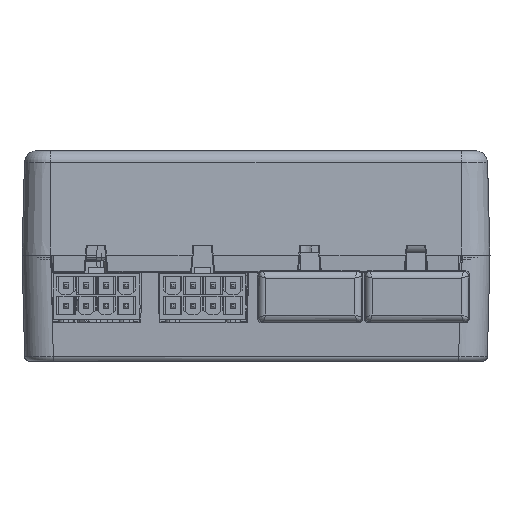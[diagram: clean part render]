
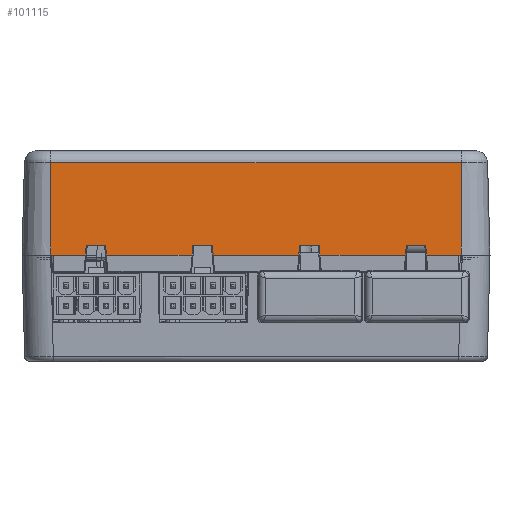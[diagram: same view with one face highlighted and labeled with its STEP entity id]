
A CAD part, left-side view. The second image highlights one B-rep face of the part: STEP entity #101115.
In plain terms, the highlighted planar face has unit normal (-1, 0, 0.026).
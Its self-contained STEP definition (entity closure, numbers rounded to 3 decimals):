
#3651=B_SPLINE_CURVE_WITH_KNOTS('',3,(#150980,#150981,#150982,#150983),
 .UNSPECIFIED.,.F.,.F.,(4,4),(0.,1.),.UNSPECIFIED.);
#3652=B_SPLINE_CURVE_WITH_KNOTS('',3,(#150988,#150989,#150990,#150991),
 .UNSPECIFIED.,.F.,.F.,(4,4),(0.,1.),.UNSPECIFIED.);
#3653=B_SPLINE_CURVE_WITH_KNOTS('',3,(#150995,#150996,#150997,#150998),
 .UNSPECIFIED.,.F.,.F.,(4,4),(0.,1.),.UNSPECIFIED.);
#3654=B_SPLINE_CURVE_WITH_KNOTS('',3,(#151002,#151003,#151004,#151005),
 .UNSPECIFIED.,.F.,.F.,(4,4),(0.,1.),.UNSPECIFIED.);
#3655=B_SPLINE_CURVE_WITH_KNOTS('',3,(#151009,#151010,#151011,#151012),
 .UNSPECIFIED.,.F.,.F.,(4,4),(0.,1.),.UNSPECIFIED.);
#3656=B_SPLINE_CURVE_WITH_KNOTS('',3,(#151016,#151017,#151018,#151019),
 .UNSPECIFIED.,.F.,.F.,(4,4),(0.,1.),.UNSPECIFIED.);
#3657=B_SPLINE_CURVE_WITH_KNOTS('',3,(#151023,#151024,#151025,#151026),
 .UNSPECIFIED.,.F.,.F.,(4,4),(0.,1.),.UNSPECIFIED.);
#3658=B_SPLINE_CURVE_WITH_KNOTS('',3,(#151030,#151031,#151032,#151033),
 .UNSPECIFIED.,.F.,.F.,(4,4),(0.,1.),.UNSPECIFIED.);
#11980=ORIENTED_EDGE('',*,*,#39346,.T.);
#11981=ORIENTED_EDGE('',*,*,#39347,.T.);
#11982=ORIENTED_EDGE('',*,*,#39348,.T.);
#11983=ORIENTED_EDGE('',*,*,#39349,.T.);
#11984=ORIENTED_EDGE('',*,*,#39350,.T.);
#11985=ORIENTED_EDGE('',*,*,#39351,.T.);
#11986=ORIENTED_EDGE('',*,*,#39352,.T.);
#11987=ORIENTED_EDGE('',*,*,#39353,.T.);
#11988=ORIENTED_EDGE('',*,*,#39354,.T.);
#11989=ORIENTED_EDGE('',*,*,#39355,.T.);
#11990=ORIENTED_EDGE('',*,*,#39356,.T.);
#11991=ORIENTED_EDGE('',*,*,#39357,.T.);
#11992=ORIENTED_EDGE('',*,*,#39358,.T.);
#11993=ORIENTED_EDGE('',*,*,#39359,.T.);
#11994=ORIENTED_EDGE('',*,*,#39360,.T.);
#11995=ORIENTED_EDGE('',*,*,#39361,.T.);
#11996=ORIENTED_EDGE('',*,*,#39362,.F.);
#11997=ORIENTED_EDGE('',*,*,#39363,.F.);
#11998=ORIENTED_EDGE('',*,*,#39364,.T.);
#11999=ORIENTED_EDGE('',*,*,#39345,.T.);
#12000=ORIENTED_EDGE('',*,*,#39365,.F.);
#12001=ORIENTED_EDGE('',*,*,#39366,.T.);
#39345=EDGE_CURVE('',#53356,#53358,#63571,.T.);
#39346=EDGE_CURVE('',#53359,#53360,#3651,.T.);
#39347=EDGE_CURVE('',#53360,#53361,#63572,.T.);
#39348=EDGE_CURVE('',#53361,#53362,#3652,.T.);
#39349=EDGE_CURVE('',#53362,#53363,#63573,.T.);
#39350=EDGE_CURVE('',#53363,#53364,#3653,.T.);
#39351=EDGE_CURVE('',#53364,#53365,#63574,.T.);
#39352=EDGE_CURVE('',#53365,#53366,#3654,.T.);
#39353=EDGE_CURVE('',#53366,#53367,#63575,.T.);
#39354=EDGE_CURVE('',#53367,#53368,#3655,.T.);
#39355=EDGE_CURVE('',#53368,#53369,#63576,.T.);
#39356=EDGE_CURVE('',#53369,#53370,#3656,.T.);
#39357=EDGE_CURVE('',#53370,#53371,#63577,.T.);
#39358=EDGE_CURVE('',#53371,#53372,#3657,.T.);
#39359=EDGE_CURVE('',#53372,#53373,#63578,.T.);
#39360=EDGE_CURVE('',#53373,#53374,#3658,.T.);
#39361=EDGE_CURVE('',#53374,#53375,#63579,.T.);
#39362=EDGE_CURVE('',#53376,#53375,#63580,.T.);
#39363=EDGE_CURVE('',#53377,#53376,#63581,.T.);
#39364=EDGE_CURVE('',#53377,#53356,#63582,.T.);
#39365=EDGE_CURVE('',#53378,#53358,#63583,.T.);
#39366=EDGE_CURVE('',#53378,#53359,#63584,.T.);
#53356=VERTEX_POINT('',#150971);
#53358=VERTEX_POINT('',#150977);
#53359=VERTEX_POINT('',#150984);
#53360=VERTEX_POINT('',#150985);
#53361=VERTEX_POINT('',#150987);
#53362=VERTEX_POINT('',#150992);
#53363=VERTEX_POINT('',#150994);
#53364=VERTEX_POINT('',#150999);
#53365=VERTEX_POINT('',#151001);
#53366=VERTEX_POINT('',#151006);
#53367=VERTEX_POINT('',#151008);
#53368=VERTEX_POINT('',#151013);
#53369=VERTEX_POINT('',#151015);
#53370=VERTEX_POINT('',#151020);
#53371=VERTEX_POINT('',#151022);
#53372=VERTEX_POINT('',#151027);
#53373=VERTEX_POINT('',#151029);
#53374=VERTEX_POINT('',#151034);
#53375=VERTEX_POINT('',#151036);
#53376=VERTEX_POINT('',#151038);
#53377=VERTEX_POINT('',#151040);
#53378=VERTEX_POINT('',#151043);
#63571=LINE('',#150978,#74891);
#63572=LINE('',#150986,#74892);
#63573=LINE('',#150993,#74893);
#63574=LINE('',#151000,#74894);
#63575=LINE('',#151007,#74895);
#63576=LINE('',#151014,#74896);
#63577=LINE('',#151021,#74897);
#63578=LINE('',#151028,#74898);
#63579=LINE('',#151035,#74899);
#63580=LINE('',#151037,#74900);
#63581=LINE('',#151039,#74901);
#63582=LINE('',#151041,#74902);
#63583=LINE('',#151042,#74903);
#63584=LINE('',#151044,#74904);
#74891=VECTOR('',#118611,1000.);
#74892=VECTOR('',#118614,1000.);
#74893=VECTOR('',#118615,1000.);
#74894=VECTOR('',#118616,1000.);
#74895=VECTOR('',#118617,1000.);
#74896=VECTOR('',#118618,1000.);
#74897=VECTOR('',#118619,1000.);
#74898=VECTOR('',#118620,1000.);
#74899=VECTOR('',#118621,1000.);
#74900=VECTOR('',#118622,1000.);
#74901=VECTOR('',#118623,1000.);
#74902=VECTOR('',#118624,1000.);
#74903=VECTOR('',#118625,1000.);
#74904=VECTOR('',#118626,1000.);
#84301=EDGE_LOOP('',(#11980,#11981,#11982,#11983,#11984,#11985,#11986,#11987,
#11988,#11989,#11990,#11991,#11992,#11993,#11994,#11995,#11996,#11997,#11998,
#11999,#12000,#12001));
#90093=FACE_BOUND('',#84301,.T.);
#95511=PLANE('',#107022);
#101115=ADVANCED_FACE('',(#90093),#95511,.T.);
#107022=AXIS2_PLACEMENT_3D('',#150979,#118612,#118613);
#118611=DIRECTION('',(-0.026,0.,-1.));
#118612=DIRECTION('',(-1.,0.,0.026));
#118613=DIRECTION('',(0.,1.,0.));
#118614=DIRECTION('',(0.,-1.,0.));
#118615=DIRECTION('',(0.,-1.,0.));
#118616=DIRECTION('',(0.,-1.,0.));
#118617=DIRECTION('',(0.,-1.,0.));
#118618=DIRECTION('',(0.,-1.,0.));
#118619=DIRECTION('',(0.,-1.,0.));
#118620=DIRECTION('',(0.,-1.,0.));
#118621=DIRECTION('',(0.,-1.,0.));
#118622=DIRECTION('',(0.,1.,0.));
#118623=DIRECTION('',(-0.026,0.,-1.));
#118624=DIRECTION('',(0.,1.,0.));
#118625=DIRECTION('',(0.,1.,0.));
#118626=DIRECTION('',(0.,-1.,0.));
#150971=CARTESIAN_POINT('',(-162.461,42.969,41.565));
#150977=CARTESIAN_POINT('',(-162.969,42.969,22.2));
#150978=CARTESIAN_POINT('',(-162.461,42.969,41.565));
#150979=CARTESIAN_POINT('',(-162.969,-47.101,22.2));
#150980=CARTESIAN_POINT('',(-162.969,35.701,22.2));
#150981=CARTESIAN_POINT('',(-162.951,35.643,22.867));
#150982=CARTESIAN_POINT('',(-162.934,35.584,23.533));
#150983=CARTESIAN_POINT('',(-162.916,35.526,24.2));
#150984=CARTESIAN_POINT('',(-162.969,35.701,22.2));
#150985=CARTESIAN_POINT('',(-162.916,35.526,24.2));
#150986=CARTESIAN_POINT('',(-162.916,35.526,24.2));
#150987=CARTESIAN_POINT('',(-162.916,31.474,24.2));
#150988=CARTESIAN_POINT('',(-162.916,31.474,24.2));
#150989=CARTESIAN_POINT('',(-162.934,31.416,23.533));
#150990=CARTESIAN_POINT('',(-162.951,31.357,22.867));
#150991=CARTESIAN_POINT('',(-162.969,31.299,22.2));
#150992=CARTESIAN_POINT('',(-162.969,31.299,22.2));
#150993=CARTESIAN_POINT('',(-162.969,-23.55,22.2));
#150994=CARTESIAN_POINT('',(-162.969,13.371,22.2));
#150995=CARTESIAN_POINT('',(-162.969,13.371,22.2));
#150996=CARTESIAN_POINT('',(-162.951,13.313,22.867));
#150997=CARTESIAN_POINT('',(-162.934,13.254,23.533));
#150998=CARTESIAN_POINT('',(-162.916,13.196,24.2));
#150999=CARTESIAN_POINT('',(-162.916,13.196,24.2));
#151000=CARTESIAN_POINT('',(-162.916,13.196,24.2));
#151001=CARTESIAN_POINT('',(-162.916,9.144,24.2));
#151002=CARTESIAN_POINT('',(-162.916,9.144,24.2));
#151003=CARTESIAN_POINT('',(-162.934,9.086,23.533));
#151004=CARTESIAN_POINT('',(-162.951,9.027,22.867));
#151005=CARTESIAN_POINT('',(-162.969,8.969,22.2));
#151006=CARTESIAN_POINT('',(-162.969,8.969,22.2));
#151007=CARTESIAN_POINT('',(-162.969,-23.55,22.2));
#151008=CARTESIAN_POINT('',(-162.969,-8.959,22.2));
#151009=CARTESIAN_POINT('',(-162.969,-8.959,22.2));
#151010=CARTESIAN_POINT('',(-162.951,-9.017,22.867));
#151011=CARTESIAN_POINT('',(-162.934,-9.076,23.533));
#151012=CARTESIAN_POINT('',(-162.916,-9.134,24.2));
#151013=CARTESIAN_POINT('',(-162.916,-9.134,24.2));
#151014=CARTESIAN_POINT('',(-162.916,-9.134,24.2));
#151015=CARTESIAN_POINT('',(-162.916,-13.186,24.2));
#151016=CARTESIAN_POINT('',(-162.916,-13.186,24.2));
#151017=CARTESIAN_POINT('',(-162.934,-13.244,23.533));
#151018=CARTESIAN_POINT('',(-162.951,-13.303,22.867));
#151019=CARTESIAN_POINT('',(-162.969,-13.361,22.2));
#151020=CARTESIAN_POINT('',(-162.969,-13.361,22.2));
#151021=CARTESIAN_POINT('',(-162.969,-23.55,22.2));
#151022=CARTESIAN_POINT('',(-162.969,-31.289,22.2));
#151023=CARTESIAN_POINT('',(-162.969,-31.289,22.2));
#151024=CARTESIAN_POINT('',(-162.951,-31.347,22.867));
#151025=CARTESIAN_POINT('',(-162.934,-31.406,23.533));
#151026=CARTESIAN_POINT('',(-162.916,-31.464,24.2));
#151027=CARTESIAN_POINT('',(-162.916,-31.464,24.2));
#151028=CARTESIAN_POINT('',(-162.916,-31.464,24.2));
#151029=CARTESIAN_POINT('',(-162.916,-35.516,24.2));
#151030=CARTESIAN_POINT('',(-162.916,-35.516,24.2));
#151031=CARTESIAN_POINT('',(-162.934,-35.574,23.533));
#151032=CARTESIAN_POINT('',(-162.951,-35.633,22.867));
#151033=CARTESIAN_POINT('',(-162.969,-35.691,22.2));
#151034=CARTESIAN_POINT('',(-162.969,-35.691,22.2));
#151035=CARTESIAN_POINT('',(-162.969,-23.55,22.2));
#151036=CARTESIAN_POINT('',(-162.969,-42.45,22.2));
#151037=CARTESIAN_POINT('',(-162.969,-42.969,22.2));
#151038=CARTESIAN_POINT('',(-162.969,-42.969,22.2));
#151039=CARTESIAN_POINT('',(-162.461,-42.969,41.565));
#151040=CARTESIAN_POINT('',(-162.461,-42.969,41.565));
#151041=CARTESIAN_POINT('',(-162.461,-42.969,41.565));
#151042=CARTESIAN_POINT('',(-162.969,42.45,22.2));
#151043=CARTESIAN_POINT('',(-162.969,42.45,22.2));
#151044=CARTESIAN_POINT('',(-162.969,-23.55,22.2));
